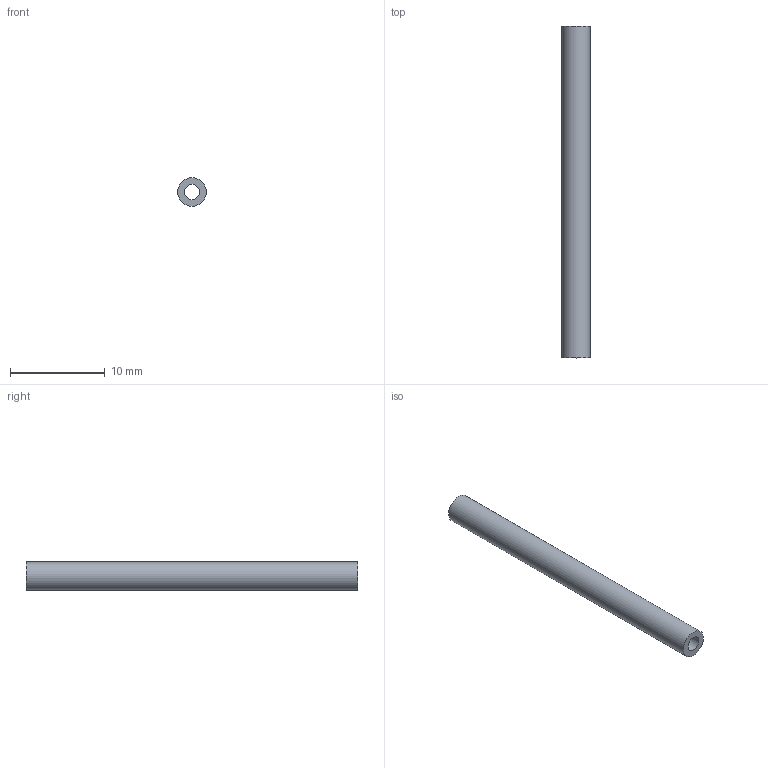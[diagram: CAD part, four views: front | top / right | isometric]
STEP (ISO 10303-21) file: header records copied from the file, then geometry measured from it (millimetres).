
FILE_DESCRIPTION(('FreeCAD Model'),'2;1');
FILE_NAME('Open CASCADE Shape Model','2026-10-30T14:44:39',('FreeCAD'),( 'FreeCAD'),'Open CASCADE STEP processor 7.8','FreeCAD','Unknown');
FILE_SCHEMA(('AUTOMOTIVE_DESIGN { 1 0 10303 214 1 1 1 1 }'));
Length unit declared in the file: millimetre
Products named in the file (1): Open CASCADE STEP translator 7.8 15
Bounding box: 3 x 35 x 3 mm (x, y, z)
Volume: 177 mm3; surface area: 515.9 mm2
Topology: 1 solids, 1 shells, 4 faces, 6 edges, 4 vertices
Faces by surface type: cylinder 2, plane 2
Full cylindrical faces by diameter (mm): 1.6 x1, 3 x1
Entity records: 108 total; most frequent: DIRECTION 20, CARTESIAN_POINT 15, ORIENTED_EDGE 12, AXIS2_PLACEMENT_3D 9, FACE_BOUND 6, EDGE_LOOP 6, EDGE_CURVE 6, ADVANCED_FACE 4
